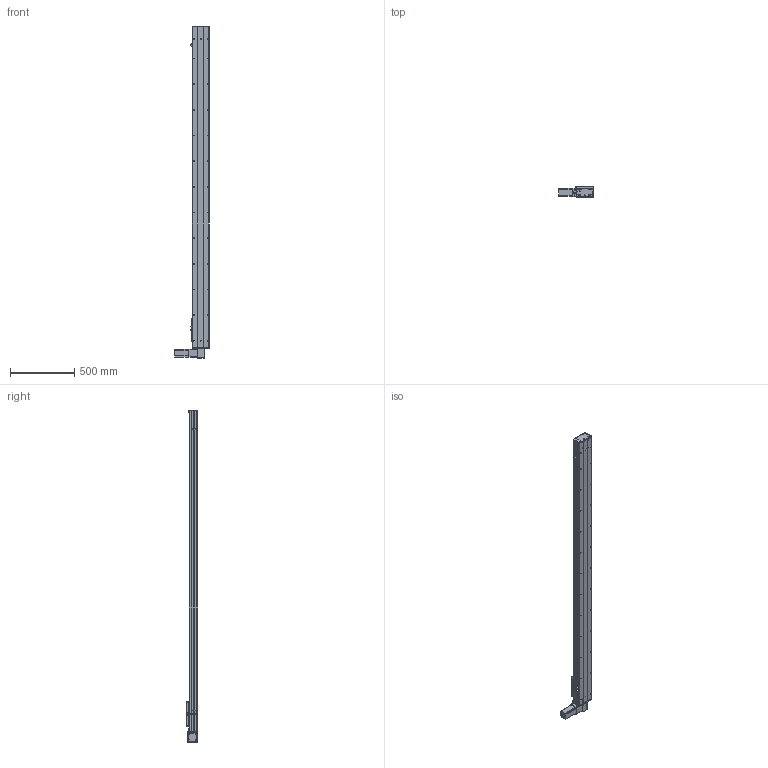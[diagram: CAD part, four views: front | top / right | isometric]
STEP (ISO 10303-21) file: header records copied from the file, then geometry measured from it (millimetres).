
FILE_DESCRIPTION (( 'STEP AP203' ), '1' );
FILE_NAME ('Y135CB-D90-S2200-BD-P400W.STEP', '2020-02-19T03:59:40', ( '微软用户' ), ( '微软中国' ), 'SwSTEP 2.0', 'SolidWorks 2017', '' );
FILE_SCHEMA (( 'CONFIG_CONTROL_DESIGN' ));
Length unit declared in the file: millimetre
Products named in the file (16): C-雄赽釱--; 0B-源倛裔啣; Y10B--々湍喘謫眊--666; san松下电机400不带刹车----; 0B-薊粣ん眊; 5CB --掛极耜裔啣-; Y135CB-D90-S2200-BD-P400W; C-詩湍揤踡え-陔; 135CB--詩湍-CE; Y135CB-耜裔; Y100-135俋离換覜ん--; 135CB---遴掛极.-; Y135C-陔俋离換覜結え-; 35CB---喘謫眊楊擘啣; 5C--俋欶; 0B-埴倛裔啣
Assembly tree (19 placements, depth 2):
  Y135CB-D90-S2200-BD-P400W
    Y135CB-耜裔
    135CB---遴掛极.-
    35CB---喘謫眊楊擘啣
    0B-埴倛裔啣
    0B-源倛裔啣
    san松下电机400不带刹车----
    5CB --掛极耜裔啣-  x2
    C-詩湍揤踡え-陔  x2
    135CB--詩湍-CE
    Y100-135俋离換覜ん--  x3
    Y135C-陔俋离換覜結え-
    5C--俋欶
    C-雄赽釱--
    Y10B--々湍喘謫眊--666
    0B-薊粣ん眊
Bounding box: 272 x 91 x 2588 mm (x, y, z)
Volume: 7503085.9 mm3; surface area: 2923524.1 mm2
Topology: 19 solids, 19 shells, 879 faces, 2374 edges, 1572 vertices
Faces by surface type: cylinder 448, plane 415, cone 16
Entity records: 27218 total; most frequent: DIRECTION 4538, CARTESIAN_POINT 4511, ORIENTED_EDGE 4224, EDGE_CURVE 2112, AXIS2_PLACEMENT_3D 1671, VERTEX_POINT 1400, VECTOR 1196, LINE 1196
